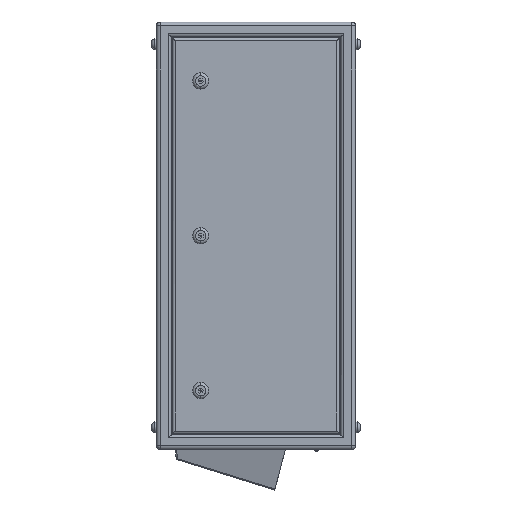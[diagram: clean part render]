
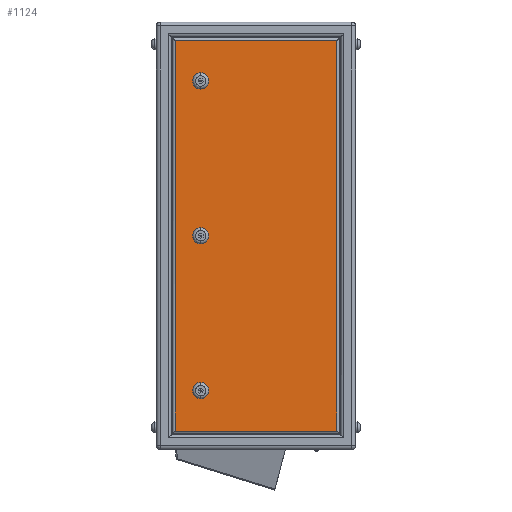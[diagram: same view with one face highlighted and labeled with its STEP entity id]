
A CAD part, left-side view. The second image highlights one B-rep face of the part: STEP entity #1124.
In plain terms, the highlighted planar face has unit normal (-1, 0, 0).
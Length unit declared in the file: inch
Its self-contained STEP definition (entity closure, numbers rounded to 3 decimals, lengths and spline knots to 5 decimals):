
#130 = DIRECTION ( 'NONE',  ( 0., 0., -1. ) ) ;
#323 = CARTESIAN_POINT ( 'NONE',  ( -14., 3.75, 11.05 ) ) ;
#567 = ORIENTED_EDGE ( 'NONE', *, *, #9354, .F. ) ;
#821 = FACE_OUTER_BOUND ( 'NONE', #20086, .T. ) ;
#1124 = ADVANCED_FACE ( 'NONE', ( #8338, #1674, #10655, #821 ), #21060, .F. ) ;
#1325 = LINE ( 'NONE', #14505, #16929 ) ;
#1674 = FACE_BOUND ( 'NONE', #8501, .T. ) ;
#1909 = ORIENTED_EDGE ( 'NONE', *, *, #10612, .T. ) ;
#2145 = DIRECTION ( 'NONE',  ( 0., -1., 0. ) ) ;
#2162 = VERTEX_POINT ( 'NONE', #3419 ) ;
#2573 = DIRECTION ( 'NONE',  ( 0., 0., -1. ) ) ;
#2632 = CARTESIAN_POINT ( 'NONE',  ( -14., 3.75, 10.5 ) ) ;
#2755 = ORIENTED_EDGE ( 'NONE', *, *, #19317, .T. ) ;
#2805 = VECTOR ( 'NONE', #10183, 39.37008 ) ;
#3010 = CARTESIAN_POINT ( 'NONE',  ( -14., 3.75, 10.5 ) ) ;
#3193 = VECTOR ( 'NONE', #19698, 39.37008 ) ;
#3277 = ORIENTED_EDGE ( 'NONE', *, *, #11042, .T. ) ;
#3419 = CARTESIAN_POINT ( 'NONE',  ( -14., -5.49, 13.24 ) ) ;
#3485 = ORIENTED_EDGE ( 'NONE', *, *, #16963, .T. ) ;
#3519 = VERTEX_POINT ( 'NONE', #23313 ) ;
#3770 = ORIENTED_EDGE ( 'NONE', *, *, #14411, .T. ) ;
#3986 = CIRCLE ( 'NONE', #3987, 0.55 ) ;
#3987 = AXIS2_PLACEMENT_3D ( 'NONE', #19182, #12121, #15541 ) ;
#4098 = CIRCLE ( 'NONE', #14525, 0.55 ) ;
#4117 = AXIS2_PLACEMENT_3D ( 'NONE', #3010, #21529, #6739 ) ;
#4256 = VERTEX_POINT ( 'NONE', #5554 ) ;
#5554 = CARTESIAN_POINT ( 'NONE',  ( -14., 5.49, -13.24 ) ) ;
#5853 = VERTEX_POINT ( 'NONE', #14870 ) ;
#6053 = EDGE_CURVE ( 'NONE', #23047, #5853, #4098, .T. ) ;
#6431 = DIRECTION ( 'NONE',  ( 0., 0., -1. ) ) ;
#6719 = AXIS2_PLACEMENT_3D ( 'NONE', #14656, #16367, #11165 ) ;
#6739 = DIRECTION ( 'NONE',  ( 0., 0., -1. ) ) ;
#7036 = VECTOR ( 'NONE', #2145, 39.37008 ) ;
#7420 = VERTEX_POINT ( 'NONE', #15174 ) ;
#7482 = VERTEX_POINT ( 'NONE', #323 ) ;
#7520 = CARTESIAN_POINT ( 'NONE',  ( -14., 3.75, -0.55 ) ) ;
#7570 = EDGE_CURVE ( 'NONE', #7420, #7482, #22033, .T. ) ;
#7577 = DIRECTION ( 'NONE',  ( 1., 0., 0. ) ) ;
#7692 = AXIS2_PLACEMENT_3D ( 'NONE', #18495, #7577, #130 ) ;
#7750 = LINE ( 'NONE', #19252, #2805 ) ;
#8338 = FACE_BOUND ( 'NONE', #24021, .T. ) ;
#8501 = EDGE_LOOP ( 'NONE', ( #13682, #567 ) ) ;
#9354 = EDGE_CURVE ( 'NONE', #5853, #23047, #20729, .T. ) ;
#10066 = DIRECTION ( 'NONE',  ( 1., 0., 0. ) ) ;
#10140 = LINE ( 'NONE', #19359, #3193 ) ;
#10146 = ORIENTED_EDGE ( 'NONE', *, *, #18350, .T. ) ;
#10183 = DIRECTION ( 'NONE',  ( 0., 0., -1. ) ) ;
#10612 = EDGE_CURVE ( 'NONE', #23804, #13442, #22047, .T. ) ;
#10655 = FACE_BOUND ( 'NONE', #12866, .T. ) ;
#11042 = EDGE_CURVE ( 'NONE', #7482, #7420, #11886, .T. ) ;
#11165 = DIRECTION ( 'NONE',  ( 0., 0., -1. ) ) ;
#11886 = CIRCLE ( 'NONE', #4117, 0.55 ) ;
#12121 = DIRECTION ( 'NONE',  ( 1., 0., 0. ) ) ;
#12866 = EDGE_LOOP ( 'NONE', ( #22684, #3277 ) ) ;
#13442 = VERTEX_POINT ( 'NONE', #22323 ) ;
#13453 = DIRECTION ( 'NONE',  ( 0., 0., -1. ) ) ;
#13682 = ORIENTED_EDGE ( 'NONE', *, *, #6053, .F. ) ;
#13877 = DIRECTION ( 'NONE',  ( -1., 0., 0. ) ) ;
#14411 = EDGE_CURVE ( 'NONE', #4256, #3519, #22389, .T. ) ;
#14505 = CARTESIAN_POINT ( 'NONE',  ( -14., 6.75, 13.24 ) ) ;
#14525 = AXIS2_PLACEMENT_3D ( 'NONE', #19156, #13877, #2573 ) ;
#14656 = CARTESIAN_POINT ( 'NONE',  ( -14., 3.75, -10.5 ) ) ;
#14670 = AXIS2_PLACEMENT_3D ( 'NONE', #20812, #22706, #13453 ) ;
#14870 = CARTESIAN_POINT ( 'NONE',  ( -14., 3.75, -9.95 ) ) ;
#15146 = ORIENTED_EDGE ( 'NONE', *, *, #15821, .T. ) ;
#15174 = CARTESIAN_POINT ( 'NONE',  ( -14., 3.75, 9.95 ) ) ;
#15541 = DIRECTION ( 'NONE',  ( 0., 0., -1. ) ) ;
#15821 = EDGE_CURVE ( 'NONE', #13442, #23804, #3986, .T. ) ;
#15863 = CARTESIAN_POINT ( 'NONE',  ( -14., 5.49, 13.24 ) ) ;
#16367 = DIRECTION ( 'NONE',  ( -1., 0., 0. ) ) ;
#16802 = CARTESIAN_POINT ( 'NONE',  ( -14., 6.75, -13.24 ) ) ;
#16929 = VECTOR ( 'NONE', #20115, 39.37008 ) ;
#16963 = EDGE_CURVE ( 'NONE', #3519, #2162, #10140, .T. ) ;
#17736 = CARTESIAN_POINT ( 'NONE',  ( -14., 3.75, -11.05 ) ) ;
#18350 = EDGE_CURVE ( 'NONE', #18609, #4256, #7750, .T. ) ;
#18495 = CARTESIAN_POINT ( 'NONE',  ( -14., 3.75, 0. ) ) ;
#18609 = VERTEX_POINT ( 'NONE', #15863 ) ;
#19156 = CARTESIAN_POINT ( 'NONE',  ( -14., 3.75, -10.5 ) ) ;
#19182 = CARTESIAN_POINT ( 'NONE',  ( -14., 3.75, 0. ) ) ;
#19252 = CARTESIAN_POINT ( 'NONE',  ( -14., 5.49, -14.5 ) ) ;
#19317 = EDGE_CURVE ( 'NONE', #2162, #18609, #1325, .T. ) ;
#19359 = CARTESIAN_POINT ( 'NONE',  ( -14., -5.49, -14.5 ) ) ;
#19698 = DIRECTION ( 'NONE',  ( 0., 0., 1. ) ) ;
#20086 = EDGE_LOOP ( 'NONE', ( #3770, #3485, #2755, #10146 ) ) ;
#20115 = DIRECTION ( 'NONE',  ( 0., 1., 0. ) ) ;
#20729 = CIRCLE ( 'NONE', #6719, 0.55 ) ;
#20812 = CARTESIAN_POINT ( 'NONE',  ( -14., 6.75, -14.5 ) ) ;
#21060 = PLANE ( 'NONE',  #14670 ) ;
#21529 = DIRECTION ( 'NONE',  ( 1., 0., 0. ) ) ;
#22033 = CIRCLE ( 'NONE', #22981, 0.55 ) ;
#22047 = CIRCLE ( 'NONE', #7692, 0.55 ) ;
#22323 = CARTESIAN_POINT ( 'NONE',  ( -14., 3.75, 0.55 ) ) ;
#22389 = LINE ( 'NONE', #16802, #7036 ) ;
#22684 = ORIENTED_EDGE ( 'NONE', *, *, #7570, .T. ) ;
#22706 = DIRECTION ( 'NONE',  ( 1., 0., 0. ) ) ;
#22981 = AXIS2_PLACEMENT_3D ( 'NONE', #2632, #10066, #6431 ) ;
#23047 = VERTEX_POINT ( 'NONE', #17736 ) ;
#23313 = CARTESIAN_POINT ( 'NONE',  ( -14., -5.49, -13.24 ) ) ;
#23804 = VERTEX_POINT ( 'NONE', #7520 ) ;
#24021 = EDGE_LOOP ( 'NONE', ( #1909, #15146 ) ) ;
